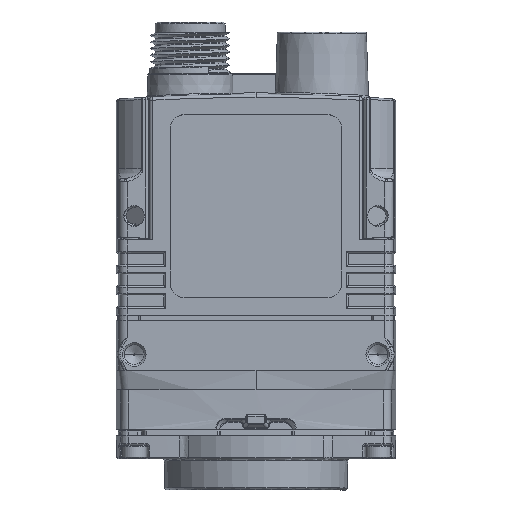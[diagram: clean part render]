
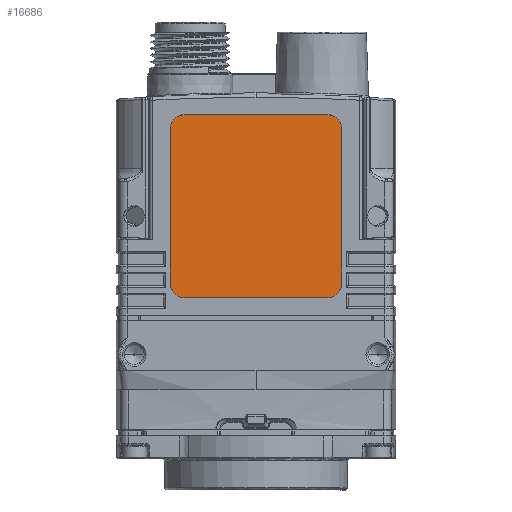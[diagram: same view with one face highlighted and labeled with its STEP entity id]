
A CAD part, front view. The second image highlights one B-rep face of the part: STEP entity #16686.
In plain terms, the highlighted planar face has unit normal (0, -1, 0).
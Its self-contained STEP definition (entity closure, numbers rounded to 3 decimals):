
#816 = CIRCLE ( 'NONE', #45169, 2.071 ) ;
#1000 = LINE ( 'NONE', #120859, #122450 ) ;
#7191 = VERTEX_POINT ( 'NONE', #125661 ) ;
#9839 = DIRECTION ( 'NONE',  ( 0., 0., 1. ) ) ;
#12020 = VERTEX_POINT ( 'NONE', #23725 ) ;
#12430 = CARTESIAN_POINT ( 'NONE',  ( 10.929, -10.9, 19.994 ) ) ;
#12464 = VERTEX_POINT ( 'NONE', #55644 ) ;
#14325 = EDGE_CURVE ( 'NONE', #68220, #12020, #53584, .T. ) ;
#14553 = EDGE_CURVE ( 'NONE', #71792, #7191, #816, .T. ) ;
#16686 = ADVANCED_FACE ( 'NONE', ( #104007 ), #113300, .T. ) ;
#17314 = DIRECTION ( 'NONE',  ( 0., 1., 0. ) ) ;
#18996 = CARTESIAN_POINT ( 'NONE',  ( 13., -10.9, 45.697 ) ) ;
#19125 = ORIENTED_EDGE ( 'NONE', *, *, #58059, .T. ) ;
#19769 = CARTESIAN_POINT ( 'NONE',  ( -13., -10.9, 45.697 ) ) ;
#20424 = LINE ( 'NONE', #71348, #112947 ) ;
#20500 = VECTOR ( 'NONE', #102766, 1000. ) ;
#21539 = VERTEX_POINT ( 'NONE', #39407 ) ;
#23725 = CARTESIAN_POINT ( 'NONE',  ( -10.929, -10.9, 47.768 ) ) ;
#24284 = LINE ( 'NONE', #104351, #61260 ) ;
#31883 = DIRECTION ( 'NONE',  ( 0., -1., 0. ) ) ;
#31952 = CARTESIAN_POINT ( 'NONE',  ( 0., -10.9, 19.994 ) ) ;
#33941 = CIRCLE ( 'NONE', #67770, 2.071 ) ;
#35156 = EDGE_CURVE ( 'NONE', #7191, #68220, #20424, .T. ) ;
#38731 = DIRECTION ( 'NONE',  ( 0., -1., 0. ) ) ;
#39407 = CARTESIAN_POINT ( 'NONE',  ( 13., -10.9, 22.065 ) ) ;
#41975 = DIRECTION ( 'NONE',  ( 0., 0., -1. ) ) ;
#43718 = DIRECTION ( 'NONE',  ( 0., 0., -1. ) ) ;
#45169 = AXIS2_PLACEMENT_3D ( 'NONE', #107997, #17314, #106008 ) ;
#45790 = CIRCLE ( 'NONE', #62722, 2.071 ) ;
#46331 = EDGE_CURVE ( 'NONE', #21539, #53680, #24284, .T. ) ;
#49751 = EDGE_CURVE ( 'NONE', #82469, #21539, #33941, .T. ) ;
#53584 = CIRCLE ( 'NONE', #55759, 2.071 ) ;
#53680 = VERTEX_POINT ( 'NONE', #18996 ) ;
#54484 = EDGE_LOOP ( 'NONE', ( #62078, #57871, #94307, #90217, #124191, #95408, #19125, #115611 ) ) ;
#55644 = CARTESIAN_POINT ( 'NONE',  ( 10.929, -10.9, 47.768 ) ) ;
#55647 = CARTESIAN_POINT ( 'NONE',  ( -10.929, -10.9, 19.994 ) ) ;
#55759 = AXIS2_PLACEMENT_3D ( 'NONE', #127547, #67913, #68573 ) ;
#57871 = ORIENTED_EDGE ( 'NONE', *, *, #78069, .T. ) ;
#58059 = EDGE_CURVE ( 'NONE', #71792, #82469, #80337, .T. ) ;
#60405 = AXIS2_PLACEMENT_3D ( 'NONE', #84809, #31883, #43718 ) ;
#61260 = VECTOR ( 'NONE', #82552, 1000. ) ;
#61284 = EDGE_CURVE ( 'NONE', #12464, #12020, #1000, .T. ) ;
#61866 = CARTESIAN_POINT ( 'NONE',  ( 10.929, -10.9, 22.065 ) ) ;
#62078 = ORIENTED_EDGE ( 'NONE', *, *, #46331, .T. ) ;
#62722 = AXIS2_PLACEMENT_3D ( 'NONE', #86389, #87684, #98265 ) ;
#67770 = AXIS2_PLACEMENT_3D ( 'NONE', #61866, #38731, #41975 ) ;
#67913 = DIRECTION ( 'NONE',  ( 0., 1., 0. ) ) ;
#68220 = VERTEX_POINT ( 'NONE', #19769 ) ;
#68573 = DIRECTION ( 'NONE',  ( 0., 0., -1. ) ) ;
#71348 = CARTESIAN_POINT ( 'NONE',  ( -13., -10.9, 0. ) ) ;
#71792 = VERTEX_POINT ( 'NONE', #55647 ) ;
#78069 = EDGE_CURVE ( 'NONE', #53680, #12464, #45790, .T. ) ;
#80337 = LINE ( 'NONE', #31952, #20500 ) ;
#81098 = DIRECTION ( 'NONE',  ( -1., 0., 0. ) ) ;
#82469 = VERTEX_POINT ( 'NONE', #12430 ) ;
#82552 = DIRECTION ( 'NONE',  ( 0., 0., 1. ) ) ;
#84809 = CARTESIAN_POINT ( 'NONE',  ( 0., -10.9, 0. ) ) ;
#86389 = CARTESIAN_POINT ( 'NONE',  ( 10.929, -10.9, 45.697 ) ) ;
#87684 = DIRECTION ( 'NONE',  ( 0., -1., 0. ) ) ;
#90217 = ORIENTED_EDGE ( 'NONE', *, *, #14325, .F. ) ;
#94307 = ORIENTED_EDGE ( 'NONE', *, *, #61284, .T. ) ;
#95408 = ORIENTED_EDGE ( 'NONE', *, *, #14553, .F. ) ;
#98265 = DIRECTION ( 'NONE',  ( 0., 0., -1. ) ) ;
#102766 = DIRECTION ( 'NONE',  ( 1., 0., 0. ) ) ;
#104007 = FACE_OUTER_BOUND ( 'NONE', #54484, .T. ) ;
#104351 = CARTESIAN_POINT ( 'NONE',  ( 13., -10.9, 0. ) ) ;
#106008 = DIRECTION ( 'NONE',  ( 0., 0., -1. ) ) ;
#107997 = CARTESIAN_POINT ( 'NONE',  ( -10.929, -10.9, 22.065 ) ) ;
#112947 = VECTOR ( 'NONE', #9839, 1000. ) ;
#113300 = PLANE ( 'NONE',  #60405 ) ;
#115611 = ORIENTED_EDGE ( 'NONE', *, *, #49751, .T. ) ;
#120859 = CARTESIAN_POINT ( 'NONE',  ( 0., -10.9, 47.768 ) ) ;
#122450 = VECTOR ( 'NONE', #81098, 1000. ) ;
#124191 = ORIENTED_EDGE ( 'NONE', *, *, #35156, .F. ) ;
#125661 = CARTESIAN_POINT ( 'NONE',  ( -13., -10.9, 22.065 ) ) ;
#127547 = CARTESIAN_POINT ( 'NONE',  ( -10.929, -10.9, 45.697 ) ) ;
